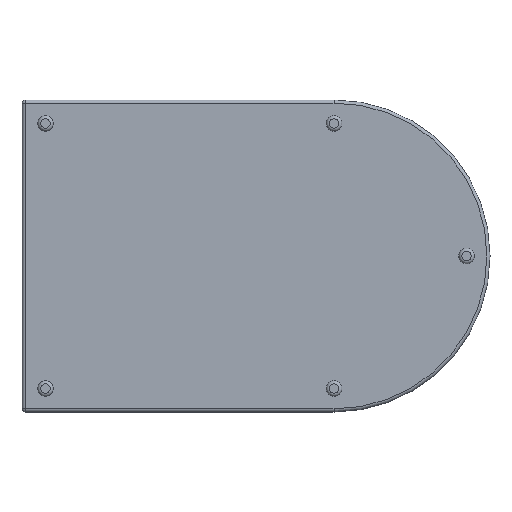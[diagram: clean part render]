
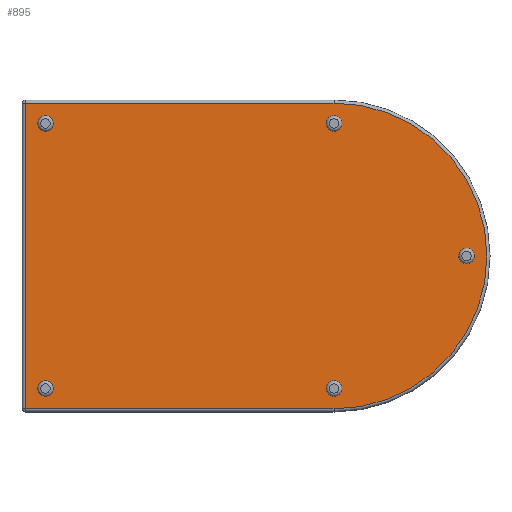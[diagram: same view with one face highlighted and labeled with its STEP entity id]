
A CAD part, front view. The second image highlights one B-rep face of the part: STEP entity #895.
In plain terms, the highlighted planar face has unit normal (0, -1, 0).
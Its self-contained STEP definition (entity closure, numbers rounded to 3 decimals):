
#61=PLANE('',#1085);
#106=LINE('',#1654,#147);
#108=LINE('',#1660,#149);
#110=LINE('',#1669,#151);
#147=VECTOR('',#1375,10.);
#149=VECTOR('',#1381,10.);
#151=VECTOR('',#1393,10.);
#244=FACE_OUTER_BOUND('',#309,.T.);
#309=EDGE_LOOP('',(#813,#814,#815,#816));
#387=CIRCLE('',#1072,490.);
#446=VERTEX_POINT('',#1627);
#452=VERTEX_POINT('',#1644);
#454=VERTEX_POINT('',#1656);
#456=VERTEX_POINT('',#1662);
#562=EDGE_CURVE('',#446,#452,#106,.T.);
#565=EDGE_CURVE('',#452,#454,#108,.T.);
#568=EDGE_CURVE('',#454,#456,#387,.T.);
#570=EDGE_CURVE('',#456,#446,#110,.T.);
#813=ORIENTED_EDGE('',*,*,#562,.F.);
#814=ORIENTED_EDGE('',*,*,#570,.F.);
#815=ORIENTED_EDGE('',*,*,#568,.F.);
#816=ORIENTED_EDGE('',*,*,#565,.F.);
#895=ADVANCED_FACE('',(#244),#61,.F.);
#1072=AXIS2_PLACEMENT_3D('',#1666,#1388,#1389);
#1085=AXIS2_PLACEMENT_3D('',#1693,#1424,#1425);
#1375=DIRECTION('',(0.,0.,1.));
#1381=DIRECTION('',(1.,0.,0.));
#1388=DIRECTION('center_axis',(0.,1.,0.));
#1389=DIRECTION('ref_axis',(1.,0.,0.));
#1393=DIRECTION('',(-1.,0.,0.));
#1424=DIRECTION('center_axis',(0.,1.,0.));
#1425=DIRECTION('ref_axis',(1.,0.,0.));
#1627=CARTESIAN_POINT('',(10.,30.,-990.));
#1644=CARTESIAN_POINT('',(10.,30.,-10.));
#1654=CARTESIAN_POINT('',(10.,30.,-750.));
#1656=CARTESIAN_POINT('',(1000.,30.,-10.));
#1660=CARTESIAN_POINT('',(375.,30.,-10.));
#1662=CARTESIAN_POINT('',(1000.,30.,-990.));
#1666=CARTESIAN_POINT('Origin',(1000.,30.,-500.));
#1669=CARTESIAN_POINT('',(875.,30.,-990.));
#1693=CARTESIAN_POINT('Origin',(750.,30.,-500.));
